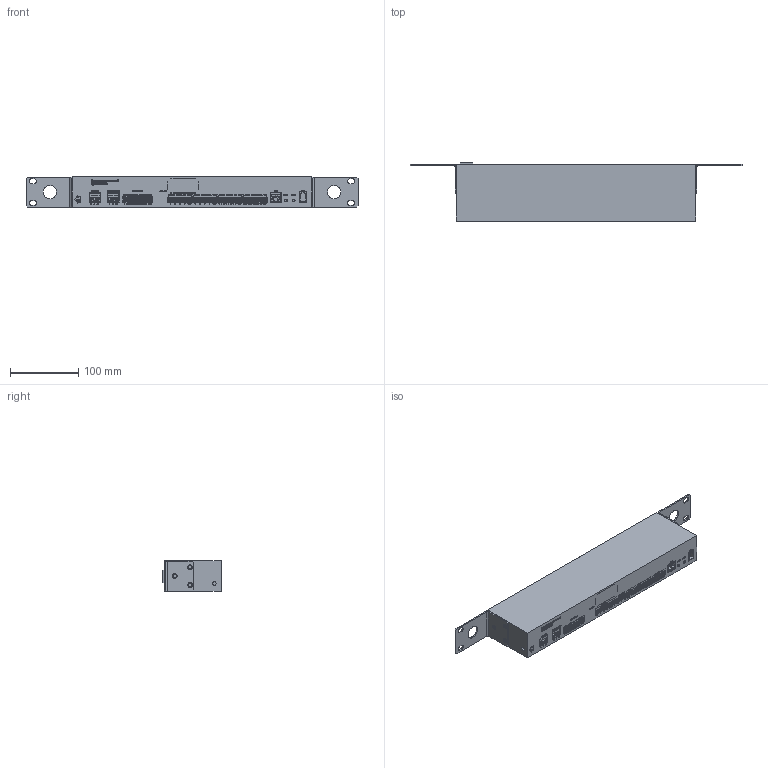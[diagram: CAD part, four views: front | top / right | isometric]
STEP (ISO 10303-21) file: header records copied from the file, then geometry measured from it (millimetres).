
FILE_DESCRIPTION (( 'STEP AP214' ), '1' );
FILE_NAME ('!CCU-1001.STEP', '2020-10-15T04:16:57', ( '' ), ( '' ), 'SwSTEP 2.0', 'SolidWorks 2020', '' );
FILE_SCHEMA (( 'AUTOMOTIVE_DESIGN' ));
Length unit declared in the file: millimetre
Products named in the file (1): !CCU-1001
Bounding box: 486 x 87.04 x 44.25 mm (x, y, z)
Surface area: 181375.2 mm2 (no closed solid volume)
Topology: 0 solids, 398 shells, 12310 faces, 32616 edges, 21474 vertices
Faces by surface type: plane 7749, bspline 3785, cylinder 646, cone 106, torus 20, sphere 4
Entity records: 541250 total; most frequent: CARTESIAN_POINT 124318, ORIENTED_EDGE 65200, DIRECTION 41704, EDGE_CURVE 32612, VECTOR 22788, LINE 22788, VERTEX_POINT 21474, EDGE_LOOP 13174
